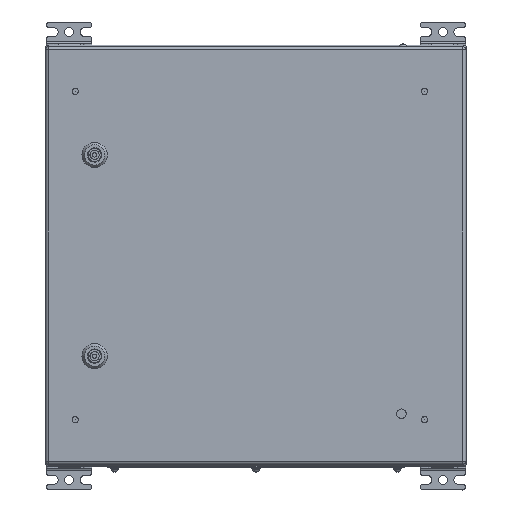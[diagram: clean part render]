
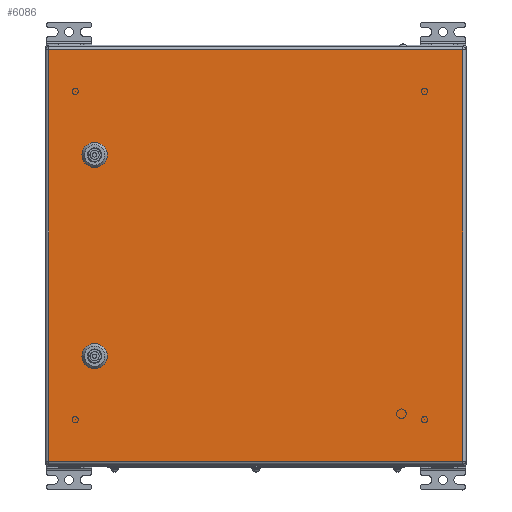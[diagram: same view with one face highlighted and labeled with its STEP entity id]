
A CAD part, top view. The second image highlights one B-rep face of the part: STEP entity #6086.
In plain terms, the highlighted planar face has unit normal (0, 0, 1).
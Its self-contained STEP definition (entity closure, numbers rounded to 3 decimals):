
#6086=ADVANCED_FACE('',(#14148,#14150,#14152),#14154,.T.);
#14148=FACE_BOUND('',#14149,.T.);
#14149=EDGE_LOOP('',(#36729,#36730,#36731,#36732));
#14150=FACE_BOUND('',#14151,.T.);
#14151=EDGE_LOOP('',(#36733,#36734,#36735,#36736,#36737,#36738,#36739,#36740));
#14152=FACE_BOUND('',#14153,.T.);
#14153=EDGE_LOOP('',(#36741,#36742,#36743,#36744,#36745,#36746,#36747,#36748));
#14154=PLANE('',#14155);
#14155=AXIS2_PLACEMENT_3D('',#14156,#14157,#14158);
#14156=CARTESIAN_POINT('',(0.,0.,1.5));
#14157=DIRECTION('',(0.,0.,1.));
#14158=DIRECTION('',(1.,0.,0.));
#36729=ORIENTED_EDGE('',*,*,#41096,.T.);
#36730=ORIENTED_EDGE('',*,*,#41097,.T.);
#36731=ORIENTED_EDGE('',*,*,#41098,.T.);
#36732=ORIENTED_EDGE('',*,*,#41099,.T.);
#36733=ORIENTED_EDGE('',*,*,#41064,.T.);
#36734=ORIENTED_EDGE('',*,*,#41078,.T.);
#36735=ORIENTED_EDGE('',*,*,#41076,.T.);
#36736=ORIENTED_EDGE('',*,*,#41074,.T.);
#36737=ORIENTED_EDGE('',*,*,#41072,.T.);
#36738=ORIENTED_EDGE('',*,*,#41070,.T.);
#36739=ORIENTED_EDGE('',*,*,#41068,.T.);
#36740=ORIENTED_EDGE('',*,*,#41066,.T.);
#36741=ORIENTED_EDGE('',*,*,#41048,.T.);
#36742=ORIENTED_EDGE('',*,*,#41062,.T.);
#36743=ORIENTED_EDGE('',*,*,#41060,.T.);
#36744=ORIENTED_EDGE('',*,*,#41058,.T.);
#36745=ORIENTED_EDGE('',*,*,#41056,.T.);
#36746=ORIENTED_EDGE('',*,*,#41054,.T.);
#36747=ORIENTED_EDGE('',*,*,#41052,.T.);
#36748=ORIENTED_EDGE('',*,*,#41050,.T.);
#41048=EDGE_CURVE('',#44624,#44622,#44625,.T.);
#41050=EDGE_CURVE('',#44627,#44624,#44628,.F.);
#41052=EDGE_CURVE('',#44630,#44627,#44631,.T.);
#41054=EDGE_CURVE('',#44633,#44630,#44634,.F.);
#41056=EDGE_CURVE('',#44636,#44633,#44637,.T.);
#41058=EDGE_CURVE('',#44639,#44636,#44640,.F.);
#41060=EDGE_CURVE('',#44642,#44639,#44643,.T.);
#41062=EDGE_CURVE('',#44622,#44642,#44645,.F.);
#41064=EDGE_CURVE('',#44648,#44646,#44649,.T.);
#41066=EDGE_CURVE('',#44651,#44648,#44652,.F.);
#41068=EDGE_CURVE('',#44654,#44651,#44655,.T.);
#41070=EDGE_CURVE('',#44657,#44654,#44658,.F.);
#41072=EDGE_CURVE('',#44660,#44657,#44661,.T.);
#41074=EDGE_CURVE('',#44663,#44660,#44664,.F.);
#41076=EDGE_CURVE('',#44666,#44663,#44667,.T.);
#41078=EDGE_CURVE('',#44646,#44666,#44669,.F.);
#41096=EDGE_CURVE('',#44696,#44697,#44698,.T.);
#41097=EDGE_CURVE('',#44697,#44699,#44700,.T.);
#41098=EDGE_CURVE('',#44699,#44701,#44702,.T.);
#41099=EDGE_CURVE('',#44701,#44696,#44703,.T.);
#44622=VERTEX_POINT('',#54151);
#44624=VERTEX_POINT('',#54155);
#44625=CIRCLE('',#54156,11.25);
#44627=VERTEX_POINT('',#54163);
#44628=LINE('',#54164,#54165);
#44630=VERTEX_POINT('',#54170);
#44631=CIRCLE('',#54171,11.25);
#44633=VERTEX_POINT('',#54178);
#44634=LINE('',#54179,#54180);
#44636=VERTEX_POINT('',#54185);
#44637=CIRCLE('',#54186,11.25);
#44639=VERTEX_POINT('',#54193);
#44640=LINE('',#54194,#54195);
#44642=VERTEX_POINT('',#54200);
#44643=CIRCLE('',#54201,11.25);
#44645=LINE('',#54208,#54209);
#44646=VERTEX_POINT('',#54211);
#44648=VERTEX_POINT('',#54215);
#44649=CIRCLE('',#54216,11.25);
#44651=VERTEX_POINT('',#54223);
#44652=LINE('',#54224,#54225);
#44654=VERTEX_POINT('',#54230);
#44655=CIRCLE('',#54231,11.25);
#44657=VERTEX_POINT('',#54238);
#44658=LINE('',#54239,#54240);
#44660=VERTEX_POINT('',#54245);
#44661=CIRCLE('',#54246,11.25);
#44663=VERTEX_POINT('',#54253);
#44664=LINE('',#54254,#54255);
#44666=VERTEX_POINT('',#54260);
#44667=CIRCLE('',#54261,11.25);
#44669=LINE('',#54268,#54269);
#44696=VERTEX_POINT('',#54332);
#44697=VERTEX_POINT('',#54333);
#44698=LINE('',#54334,#54335);
#44699=VERTEX_POINT('',#54337);
#44700=LINE('',#54338,#54339);
#44701=VERTEX_POINT('',#54341);
#44702=LINE('',#54342,#54343);
#44703=LINE('',#54345,#54346);
#54151=CARTESIAN_POINT('',(-129.955,-44.4,1.5));
#54155=CARTESIAN_POINT('',(-135.1,-49.545,1.5));
#54156=AXIS2_PLACEMENT_3D('',#54157,#54158,#54159);
#54157=CARTESIAN_POINT('',(-125.,-54.5,1.5));
#54158=DIRECTION('',(0.,0.,-1.));
#54159=DIRECTION('',(-0.898,0.44,0.));
#54163=CARTESIAN_POINT('',(-135.1,-59.455,1.5));
#54164=CARTESIAN_POINT('',(-135.1,-49.545,1.5));
#54165=VECTOR('',#54166,1.);
#54166=DIRECTION('',(0.,-1.,0.));
#54170=CARTESIAN_POINT('',(-129.955,-64.6,1.5));
#54171=AXIS2_PLACEMENT_3D('',#54172,#54173,#54174);
#54172=CARTESIAN_POINT('',(-125.,-54.5,1.5));
#54173=DIRECTION('',(0.,0.,-1.));
#54174=DIRECTION('',(-0.44,-0.898,0.));
#54178=CARTESIAN_POINT('',(-120.045,-64.6,1.5));
#54179=CARTESIAN_POINT('',(-129.955,-64.6,1.5));
#54180=VECTOR('',#54181,1.);
#54181=DIRECTION('',(1.,0.,0.));
#54185=CARTESIAN_POINT('',(-114.9,-59.455,1.5));
#54186=AXIS2_PLACEMENT_3D('',#54187,#54188,#54189);
#54187=CARTESIAN_POINT('',(-125.,-54.5,1.5));
#54188=DIRECTION('',(0.,0.,-1.));
#54189=DIRECTION('',(0.898,-0.44,0.));
#54193=CARTESIAN_POINT('',(-114.9,-49.545,1.5));
#54194=CARTESIAN_POINT('',(-114.9,-59.455,1.5));
#54195=VECTOR('',#54196,1.);
#54196=DIRECTION('',(0.,1.,0.));
#54200=CARTESIAN_POINT('',(-120.045,-44.4,1.5));
#54201=AXIS2_PLACEMENT_3D('',#54202,#54203,#54204);
#54202=CARTESIAN_POINT('',(-125.,-54.5,1.5));
#54203=DIRECTION('',(0.,0.,-1.));
#54204=DIRECTION('',(0.44,0.898,0.));
#54208=CARTESIAN_POINT('',(-120.045,-44.4,1.5));
#54209=VECTOR('',#54210,1.);
#54210=DIRECTION('',(-1.,0.,0.));
#54211=CARTESIAN_POINT('',(-368.955,-44.4,1.5));
#54215=CARTESIAN_POINT('',(-374.1,-49.545,1.5));
#54216=AXIS2_PLACEMENT_3D('',#54217,#54218,#54219);
#54217=CARTESIAN_POINT('',(-364.,-54.5,1.5));
#54218=DIRECTION('',(0.,0.,-1.));
#54219=DIRECTION('',(-0.898,0.44,0.));
#54223=CARTESIAN_POINT('',(-374.1,-59.455,1.5));
#54224=CARTESIAN_POINT('',(-374.1,-49.545,1.5));
#54225=VECTOR('',#54226,1.);
#54226=DIRECTION('',(0.,-1.,0.));
#54230=CARTESIAN_POINT('',(-368.955,-64.6,1.5));
#54231=AXIS2_PLACEMENT_3D('',#54232,#54233,#54234);
#54232=CARTESIAN_POINT('',(-364.,-54.5,1.5));
#54233=DIRECTION('',(0.,0.,-1.));
#54234=DIRECTION('',(-0.44,-0.898,0.));
#54238=CARTESIAN_POINT('',(-359.045,-64.6,1.5));
#54239=CARTESIAN_POINT('',(-368.955,-64.6,1.5));
#54240=VECTOR('',#54241,1.);
#54241=DIRECTION('',(1.,0.,0.));
#54245=CARTESIAN_POINT('',(-353.9,-59.455,1.5));
#54246=AXIS2_PLACEMENT_3D('',#54247,#54248,#54249);
#54247=CARTESIAN_POINT('',(-364.,-54.5,1.5));
#54248=DIRECTION('',(0.,0.,-1.));
#54249=DIRECTION('',(0.898,-0.44,0.));
#54253=CARTESIAN_POINT('',(-353.9,-49.545,1.5));
#54254=CARTESIAN_POINT('',(-353.9,-59.455,1.5));
#54255=VECTOR('',#54256,1.);
#54256=DIRECTION('',(0.,1.,0.));
#54260=CARTESIAN_POINT('',(-359.045,-44.4,1.5));
#54261=AXIS2_PLACEMENT_3D('',#54262,#54263,#54264);
#54262=CARTESIAN_POINT('',(-364.,-54.5,1.5));
#54263=DIRECTION('',(0.,0.,-1.));
#54264=DIRECTION('',(0.44,0.898,0.));
#54268=CARTESIAN_POINT('',(-359.045,-44.4,1.5));
#54269=VECTOR('',#54270,1.);
#54270=DIRECTION('',(-1.,0.,0.));
#54332=CARTESIAN_POINT('',(-489.,0.,1.5));
#54333=CARTESIAN_POINT('',(-489.,-492.,1.5));
#54334=CARTESIAN_POINT('',(-489.,0.,1.5));
#54335=VECTOR('',#54336,1.);
#54336=DIRECTION('',(0.,-1.,0.));
#54337=CARTESIAN_POINT('',(0.,-492.,1.5));
#54338=CARTESIAN_POINT('',(-489.,-492.,1.5));
#54339=VECTOR('',#54340,1.);
#54340=DIRECTION('',(1.,0.,0.));
#54341=CARTESIAN_POINT('',(0.,0.,1.5));
#54342=CARTESIAN_POINT('',(0.,-492.,1.5));
#54343=VECTOR('',#54344,1.);
#54344=DIRECTION('',(0.,1.,0.));
#54345=CARTESIAN_POINT('',(0.,0.,1.5));
#54346=VECTOR('',#54347,1.);
#54347=DIRECTION('',(-1.,0.,0.));
